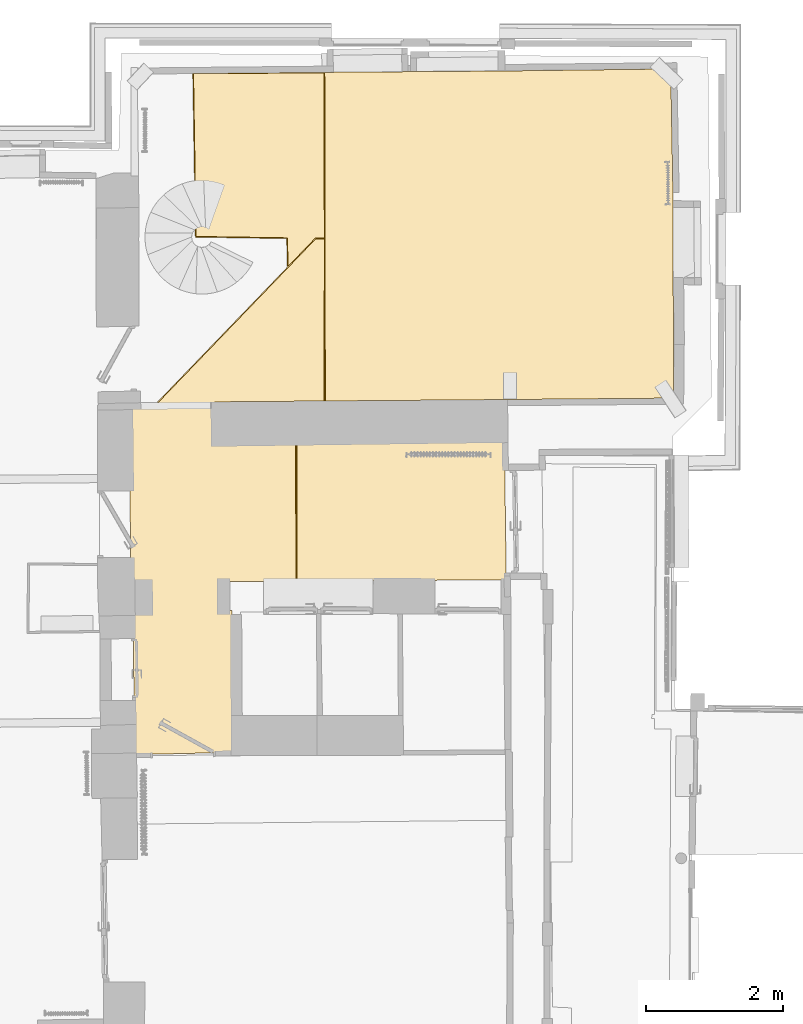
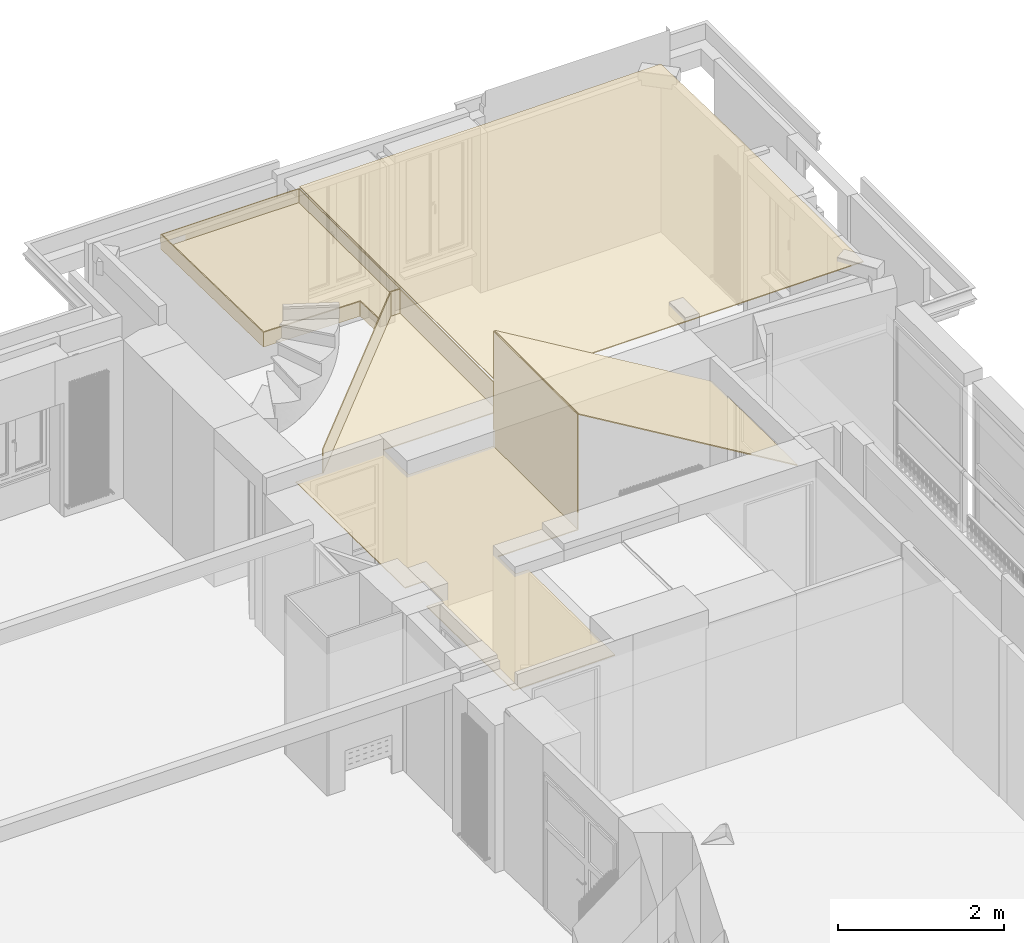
# One storey, part 70 of 72: 1 covering.
"""IFC2X3 building model written with IfcOpenShell, lengths in centimetres."""

import ifcopenshell
import ifcopenshell.guid

model = None  # the IFC model being written
_history = None  # IfcOwnerHistory: only IFC2X3 demands one
_inside = {}  # id of a spatial element -> (the spatial element, [elements in it])
_under = {}  # id of a project, library or spatial element -> (it, [spatial elements below it])
_declared = {}  # id of a project -> (the project, [libraries it declares])
_typed = {}  # id of a type object -> (the type object, [elements of that type])
_made_of = {}  # id of a material, layer set ... -> (it, [elements and type objects made of it])


def new_model(schema):
    """Start an empty IFC model of exactly this schema.

    Asked for "IFC4X3", IfcOpenShell would pick the latest addendum, in which some entities
    have other attributes; the version numbers below select the first issue.
    IFC2X3 requires an IfcOwnerHistory on every rooted entity: one is made here for all.
    """
    global model, _history
    if schema == "IFC4X3":
        model = ifcopenshell.file(schema_version=(4, 3, 0, 0))
    else:
        model = ifcopenshell.file(schema=schema)
    _inside.clear()
    _under.clear()
    _declared.clear()
    _typed.clear()
    _made_of.clear()
    _history = None
    if model.schema == "IFC2X3":
        org = make("IfcOrganization", Name="unknown")
        user = make(
            "IfcPersonAndOrganization",
            ThePerson=make("IfcPerson", FamilyName="unknown"),
            TheOrganization=org,
        )
        app = make(
            "IfcApplication",
            ApplicationDeveloper=org,
            Version="unknown",
            ApplicationFullName="unknown",
            ApplicationIdentifier="unknown",
        )
        _history = make(
            "IfcOwnerHistory",
            OwningUser=user,
            OwningApplication=app,
            ChangeAction="ADDED",
            CreationDate=0,
        )
    return model


def make(cls, **values):
    """One entity of the class cls with the attributes given. An attribute that is None is left unset."""
    return model.create_entity(
        cls, **{name: value for name, value in values.items() if value is not None}
    )


def entity(cls, *values):
    """Any entity or typed value of the class cls, its attributes in the order of the schema. None: left unset."""
    e = model.create_entity(cls)
    for i, value in enumerate(values):
        if value is not None:
            e[i] = value
    return e


def rooted(cls, **values):
    """An entity with a GlobalId (a new one), such as an element, a storey or a relation."""
    return make(cls, GlobalId=ifcopenshell.guid.new(), OwnerHistory=_history, **values)


def si_unit(unit_type, name, prefix=None):
    """IfcSIUnit, for example si_unit("LENGTHUNIT", "METRE", prefix="MILLI")."""
    return make("IfcSIUnit", UnitType=unit_type, Prefix=prefix, Name=name)


def converted_unit(unit_type, name, factor, base, dimensions=None, offset=None):
    """IfcConversionBasedUnit, such as the inch: factor (a typed value) times the base unit."""
    return make(
        "IfcConversionBasedUnit"
        if offset is None
        else "IfcConversionBasedUnitWithOffset",
        ConversionOffset=offset,
        Dimensions=None
        if dimensions is None
        else entity("IfcDimensionalExponents", *dimensions),
        UnitType=unit_type,
        Name=name,
        ConversionFactor=make(
            "IfcMeasureWithUnit", ValueComponent=factor, UnitComponent=base
        ),
    )


def assignment(units):
    """IfcUnitAssignment: the units of a project."""
    return None if units is None else make("IfcUnitAssignment", Units=units)


def point(xyz):
    """IfcCartesianPoint."""
    return None if xyz is None else make("IfcCartesianPoint", Coordinates=xyz)


def direction(xyz):
    """IfcDirection."""
    return None if xyz is None else make("IfcDirection", DirectionRatios=xyz)


def frame(location, z_axis=None, x_axis=None):
    """IfcAxis2Placement3D, a coordinate frame: its origin and axes. An axis left out is left unset."""
    return make(
        "IfcAxis2Placement3D",
        Location=point(location),
        Axis=direction(z_axis),
        RefDirection=direction(x_axis),
    )


def origin():
    """The frame at (0, 0, 0) with its axes left unset."""
    return frame((0.0, 0.0, 0.0))


def origin_with_axes():
    """The frame at (0, 0, 0) with the z axis (0, 0, 1) and the x axis (1, 0, 0) written out."""
    return frame((0.0, 0.0, 0.0), z_axis=(0.0, 0.0, 1.0), x_axis=(1.0, 0.0, 0.0))


def place(relative_to, where):
    """IfcLocalPlacement: puts the frame where relative to a parent placement (None: the world)."""
    return make(
        "IfcLocalPlacement", PlacementRelTo=relative_to, RelativePlacement=where
    )


def context(
    kind, dimensions, precision=None, world=None, true_north=None, identifier=None
):
    """IfcGeometricRepresentationContext, for example the 3D "Model" context."""
    return make(
        "IfcGeometricRepresentationContext",
        ContextIdentifier=identifier,
        ContextType=kind,
        CoordinateSpaceDimension=dimensions,
        Precision=precision,
        WorldCoordinateSystem=world,
        TrueNorth=true_north,
    )


def subcontext(parent, identifier, kind, view, scale=None):
    """IfcGeometricRepresentationSubContext, for example "Body" below "Model"."""
    return make(
        "IfcGeometricRepresentationSubContext",
        ContextIdentifier=identifier,
        ContextType=kind,
        ParentContext=parent,
        TargetScale=scale,
        TargetView=view,
    )


def project(units=None, contexts=None):
    """IfcProject with its units and contexts."""
    return rooted(
        "IfcProject",
        Name="project",
        RepresentationContexts=contexts,
        UnitsInContext=assignment(units),
    )


def spatial(cls, under=None, at=None, **own):
    """A site, building, storey or space (cls), placed at a placement, below another one or the project."""
    s = rooted(cls, ObjectPlacement=at, **own)
    if under is not None:
        _under.setdefault(under.id(), (under, []))[1].append(s)
    return s


def faces_of(points, faces, orient=None, outer=None):
    """IfcFace entities. A face is a list of loops; a loop is a list of indices into points, from 0.

    orient and outer hold one flag for each loop. By default every Orientation is true, the
    first loop of a face is its IfcFaceOuterBound and the others are IfcFaceBound.
    """
    made = []
    for i, loops in enumerate(faces):
        bounds = []
        for j, loop in enumerate(loops):
            is_outer = j == 0 if outer is None else outer[i][j]
            bounds.append(
                make(
                    "IfcFaceOuterBound" if is_outer else "IfcFaceBound",
                    Bound=make("IfcPolyLoop", Polygon=[points[k] for k in loop]),
                    Orientation=True if orient is None else orient[i][j],
                )
            )
        made.append(make("IfcFace", Bounds=bounds))
    return made


def faceted_brep(points, faces, orient=None, outer=None, voids=None):
    """IfcFacetedBrep: a solid bounded by flat faces; with voids (closed shells), ...WithVoids."""
    shared = [point(p) for p in points]
    hull = make("IfcClosedShell", CfsFaces=faces_of(shared, faces, orient, outer))
    if voids is None:
        return make("IfcFacetedBrep", Outer=hull)
    return make(
        "IfcFacetedBrepWithVoids",
        Outer=hull,
        Voids=[
            make(cls, CfsFaces=faces_of(shared, fs, o, b)) for cls, fs, o, b in voids
        ],
    )


def shape(context_of_items, identifier, shape_type, items):
    """IfcShapeRepresentation: the items that make up one representation, for example the "Body"."""
    return make(
        "IfcShapeRepresentation",
        ContextOfItems=context_of_items,
        RepresentationIdentifier=identifier,
        RepresentationType=shape_type,
        Items=items,
    )


def material(Name=None, Category=None):
    """IfcMaterial."""
    return make("IfcMaterial", Name=Name, Category=Category)


def made_of(thing, what):
    """Note that an element or type object is made of a material, layer set ...; save() writes the relation."""
    if what is not None:
        _made_of.setdefault(what.id(), (what, []))[1].append(thing)
    return thing


def element(
    cls,
    number,
    at=None,
    inside=None,
    cuts=None,
    type_object=None,
    material=None,
    context=None,
    identifier="Body",
    shape_type=None,
    held_by="IfcProductDefinitionShape",
    body=None,
    shapes=None,
    **own,
):
    """One element of the class cls, such as IfcWall. Its Tag is "e" and its number.

    at: its placement. inside: the storey or other place that contains it. cuts: it is an
    opening in that element (IfcRelVoidsElement). A single representation is given by context,
    identifier, shape_type and body (its items); several are given by shapes. held_by: the class
    of the entity that holds the representations. save() writes the other relations.
    """
    e = rooted(cls, Tag="e%d" % number, ObjectPlacement=at, **own)
    if body is not None:
        shapes = [shape(context, identifier, shape_type, body)]
    if shapes is not None:
        e.Representation = make(held_by, Representations=shapes)
    if inside is not None:
        _inside.setdefault(inside.id(), (inside, []))[1].append(e)
    if cuts is not None:
        rooted(
            "IfcRelVoidsElement", RelatingBuildingElement=cuts, RelatedOpeningElement=e
        )
    if type_object is not None:
        _typed.setdefault(type_object.id(), (type_object, []))[1].append(e)
    return made_of(e, material)


def aggregate(whole, parts):
    """IfcRelAggregates: a whole, such as a stair, and the parts it consists of."""
    return rooted("IfcRelAggregates", RelatingObject=whole, RelatedObjects=parts)


def save(model, path):
    """Write the relations noted so far, then the file.

    IfcRelAggregates (storeys below a building ...), IfcRelContainedInSpatialStructure (elements
    in a storey), IfcRelDefinesByType, IfcRelAssociatesMaterial and IfcRelDeclares: one each for
    every whole, place, type object, material and project.
    """
    for whole, parts in _under.values():
        aggregate(whole, parts)
    for where, things in _inside.values():
        rooted(
            "IfcRelContainedInSpatialStructure",
            RelatedElements=things,
            RelatingStructure=where,
        )
    for kind, things in _typed.values():
        rooted("IfcRelDefinesByType", RelatedObjects=things, RelatingType=kind)
    for what, things in _made_of.values():
        rooted("IfcRelAssociatesMaterial", RelatedObjects=things, RelatingMaterial=what)
    for by, libraries in _declared.values():
        rooted("IfcRelDeclares", RelatingContext=by, RelatedDefinitions=libraries)
    model.write(path)


model = new_model("IFC2X3")

# Units and contexts
model_context = context("Model", 3, precision=0.0001, world=origin(), true_north=direction((0.225632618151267, 0.974212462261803, 0.0)))
body_context = subcontext(model_context, "Body", "Model", "MODEL_VIEW")
ifc_project = project(units=[si_unit("LENGTHUNIT", "METRE", prefix="CENTI"), si_unit("AREAUNIT", "SQUARE_METRE", prefix="CENTI"), si_unit("VOLUMEUNIT", "CUBIC_METRE", prefix="CENTI"), converted_unit("PLANEANGLEUNIT", "DEGREE", entity("IfcRatioMeasure", 0.0174532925), si_unit("PLANEANGLEUNIT", "RADIAN"), dimensions=[0, 0, 0, 0, 0, 0, 0])], contexts=[model_context])

# Site, building, storey
site_placement = place(None, origin_with_axes())
site = spatial("IfcSite", under=ifc_project, at=site_placement, Name="Default Site", CompositionType="ELEMENT")
building_placement = place(site_placement, origin_with_axes())
building = spatial("IfcBuilding", under=site, at=building_placement, Name="Default Building", CompositionType="ELEMENT")
storey_placement = place(building_placement, frame((0.0, 0.0, 853.910374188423), z_axis=(0.0, 0.0, 1.0), x_axis=(1.0, 0.0, 0.0)))
storey = spatial("IfcBuildingStorey", under=building, at=storey_placement, Name="Niveau 2", CompositionType="ELEMENT", Elevation=853.910374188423)

# Covering
ifc_material = material(Name="Blanc")
covering_placement = place(storey_placement, frame((826.983669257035, 172.184183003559, 209.0), z_axis=(0.0, 0.0, 1.0), x_axis=(1.0, 0.0, 0.0)))
element("IfcCovering", 1, at=covering_placement, inside=storey, material=ifc_material, Name="Faux-plafond 152175", PredefinedType="CEILING", context=body_context, shape_type="Brep", body=[
    faceted_brep([(-261.31799504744, 538.27109157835, 40.189639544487), (-260.439279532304, 58.6967927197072, 40.189639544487), (-4.19934079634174, 60.7167464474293, 40.189639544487), (247.452232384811, 62.9652005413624, 40.189639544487), (246.923419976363, 352.796075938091, 40.189639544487), (243.44947054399, 543.209264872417, 40.189639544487), (-8.76171872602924, 540.120885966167, 40.189639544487), (-8.76171872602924, 540.120885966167, 38.7896456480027), (243.44947054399, 543.209264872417, 38.7896456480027), (246.923419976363, 352.796075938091, 38.7896456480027), (247.452232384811, 62.9652005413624, 38.7896456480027), (-4.19934079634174, 60.7167464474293, 38.7896456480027), (-260.439279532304, 58.6967927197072, 38.7896456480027), (-261.31799504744, 538.27109157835, 38.7896456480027), (-260.439283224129, 58.6967927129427, 38.7896456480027), (-260.439283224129, 58.6967927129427, 40.189639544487), (-4.1993406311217, 60.7167254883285, 38.7896456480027), (-4.1993406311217, 60.7167254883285, 40.189639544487), (247.452232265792, 62.9652138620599, 38.7896456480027), (247.452232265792, 62.9652138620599, 40.189639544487), (246.923419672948, 352.796075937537, 38.7896456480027), (246.923419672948, 352.796075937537, 40.189639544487), (243.449435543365, 543.20926423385, 38.7896456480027), (243.449435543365, 543.20926423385, 40.189639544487), (-8.76171913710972, 540.12091953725, 38.7896456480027), (-8.76171913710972, 540.12091953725, 40.189639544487), (-261.317995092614, 538.271097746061, 38.7896456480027), (-261.317995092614, 538.271097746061, 40.189639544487)], [[[0, 1, 2, 3, 4, 5, 6]], [[7, 8, 9, 10, 11, 12, 13]], [[13, 14, 15, 0]], [[12, 16, 17, 1]], [[11, 18, 19, 2]], [[10, 20, 21, 3]], [[9, 22, 23, 4]], [[8, 24, 25, 5]], [[7, 26, 27, 6]]]),
    faceted_brep([(-274.937894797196, 296.558330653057, 17.489615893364), (-260.677173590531, 296.338127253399, 17.489615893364), (-261.31799504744, 538.27109157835, 17.489615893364), (-454.056313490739, 538.015125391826, 17.489615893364), (-450.223663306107, 297.575805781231, 17.489615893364), (-316.98377416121, 295.574043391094, 17.489615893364), (-315.99500462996, 253.902242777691, 17.489615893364), (-315.99500462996, 253.902242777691, 16.0896219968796), (-316.98377416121, 295.574043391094, 16.0896219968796), (-450.223663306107, 297.575805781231, 16.0896219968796), (-454.056313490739, 538.015125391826, 16.0896219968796), (-261.31799504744, 538.27109157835, 16.0896219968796), (-260.677173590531, 296.338127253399, 16.0896219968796), (-274.937894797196, 296.558330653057, 16.0896219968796), (-260.677173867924, 296.338109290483, 16.0896219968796), (-260.677173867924, 296.338109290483, 17.489615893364), (-261.317969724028, 538.271091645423, 16.0896219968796), (-261.317969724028, 538.271091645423, 17.489615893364), (-454.056313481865, 538.015118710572, 16.0896219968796), (-454.056313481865, 538.015118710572, 17.489615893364), (-450.223660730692, 297.575805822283, 16.0896219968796), (-450.223660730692, 297.575805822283, 17.489615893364), (-316.983774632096, 295.574012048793, 16.0896219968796), (-316.983774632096, 295.574012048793, 17.489615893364), (-315.994970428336, 253.902243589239, 16.0896219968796), (-315.994970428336, 253.902243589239, 17.489615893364), (-274.937900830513, 296.558336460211, 16.0896219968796), (-274.937900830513, 296.558336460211, 17.489615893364)], [[[0, 1, 2, 3, 4, 5, 6]], [[7, 8, 9, 10, 11, 12, 13]], [[13, 14, 15, 0]], [[12, 16, 17, 1]], [[11, 18, 19, 2]], [[10, 20, 21, 3]], [[9, 22, 23, 4]], [[8, 24, 25, 5]], [[7, 26, 27, 6]]]),
    faceted_brep([(-544.082572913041, -205.771641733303, 1.39998576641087), (-517.963245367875, -205.587496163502, 1.39998576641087), (-517.635109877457, -252.12933600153, 1.39998576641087), (-541.043236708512, -252.421327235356, 1.39998576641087), (-538.692763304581, -457.298423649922, 1.39998576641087), (-395.823076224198, -453.99239242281, 1.39998576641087), (-396.896913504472, -246.966858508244, 1.39998576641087), (-414.25783917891, -247.111137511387, 1.39998576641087), (-414.636066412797, -204.862736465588, 1.39998576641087), (-302.256658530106, -204.066716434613, 1.39998576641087), (-302.491167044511, -1.81306779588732, 1.39998576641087), (-421.853187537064, -2.35383689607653, 1.39998576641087), (-422.324398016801, 57.420657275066, 1.39998576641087), (-260.439279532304, 58.6967927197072, 1.39998576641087), (-260.677173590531, 296.338127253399, 1.39998576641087), (-274.937894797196, 296.558330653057, 1.39998576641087), (-510.029342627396, 52.3111563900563, 1.39998576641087), (-547.057774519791, 51.8835765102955, 1.39998576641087), (-547.057774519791, 51.8835765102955, -8.13007350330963e-06), (-510.029342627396, 52.3111563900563, -8.13007350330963e-06), (-274.937894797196, 296.558330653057, -8.13007350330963e-06), (-260.677173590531, 296.338127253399, -8.13007350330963e-06), (-260.439279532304, 58.6967927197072, -8.13007350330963e-06), (-422.324398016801, 57.420657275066, -8.13007350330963e-06), (-421.853187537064, -2.35383689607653, -8.13007350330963e-06), (-302.491167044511, -1.81306779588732, -8.13007350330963e-06), (-302.256658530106, -204.066716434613, -8.13007350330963e-06), (-414.636066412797, -204.862736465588, -8.13007350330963e-06), (-414.25783917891, -247.111137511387, -8.13007350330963e-06), (-396.896913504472, -246.966858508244, -8.13007350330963e-06), (-395.823076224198, -453.99239242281, -8.13007350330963e-06), (-538.692763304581, -457.298423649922, -8.13007350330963e-06), (-541.043236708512, -252.421327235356, -8.13007350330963e-06), (-517.635109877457, -252.12933600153, -8.13007350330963e-06), (-517.963245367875, -205.587496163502, -8.13007350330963e-06), (-544.082572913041, -205.771641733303, -8.13007350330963e-06), (-517.963245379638, -205.587494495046, -8.13007350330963e-06), (-517.963245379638, -205.587494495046, 1.39998576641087), (-517.635114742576, -252.12933603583, -8.13007350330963e-06), (-517.635114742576, -252.12933603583, 1.39998576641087), (-541.04323673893, -252.421324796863, -8.13007350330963e-06), (-541.04323673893, -252.421324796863, 1.39998576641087), (-538.69274633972, -457.298423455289, -8.13007350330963e-06), (-538.69274633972, -457.298423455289, 1.39998576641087), (-395.823076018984, -453.992401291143, -8.13007350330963e-06), (-395.823076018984, -453.992401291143, 1.39998576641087), (-396.89691789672, -246.966858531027, -8.13007350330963e-06), (-396.89691789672, -246.966858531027, 1.39998576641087), (-414.257839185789, -247.111136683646, -8.13007350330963e-06), (-414.257839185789, -247.111136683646, 1.39998576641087), (-414.636037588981, -204.862736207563, -8.13007350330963e-06), (-414.636037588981, -204.862736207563, 1.39998576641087), (-302.256658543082, -204.066714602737, -8.13007350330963e-06), (-302.256658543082, -204.066714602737, 1.39998576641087), (-302.491128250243, -1.81306775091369, -8.13007350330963e-06), (-302.491128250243, -1.81306775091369, 1.39998576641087), (-421.853187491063, -2.35384704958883, -8.13007350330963e-06), (-421.853187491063, -2.35384704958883, 1.39998576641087), (-422.324388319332, 57.4206573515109, -8.13007350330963e-06), (-422.324388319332, 57.4206573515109, 1.39998576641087), (-260.439279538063, 58.6967934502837, -8.13007350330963e-06), (-260.439279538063, 58.6967934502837, 1.39998576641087), (-260.677195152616, 296.338127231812, -8.13007350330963e-06), (-260.677195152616, 296.338127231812, 1.39998576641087), (-274.937894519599, 296.558348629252, -8.13007350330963e-06), (-274.937894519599, 296.558348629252, 1.39998576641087), (-510.02932758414, 52.3111419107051, -8.13007350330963e-06), (-510.02932758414, 52.3111419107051, 1.39998576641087), (-547.057774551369, 51.8835792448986, -8.13007350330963e-06), (-547.057774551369, 51.8835792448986, 1.39998576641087), (-544.082561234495, -205.771641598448, -8.13007350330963e-06), (-544.082561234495, -205.771641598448, 1.39998576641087)], [[[0, 1, 2, 3, 4, 5, 6, 7, 8, 9, 10, 11, 12, 13, 14, 15, 16, 17]], [[18, 19, 20, 21, 22, 23, 24, 25, 26, 27, 28, 29, 30, 31, 32, 33, 34, 35]], [[35, 36, 37, 0]], [[34, 38, 39, 1]], [[33, 40, 41, 2]], [[32, 42, 43, 3]], [[31, 44, 45, 4]], [[30, 46, 47, 5]], [[29, 48, 49, 6]], [[28, 50, 51, 7]], [[27, 52, 53, 8]], [[26, 54, 55, 9]], [[25, 56, 57, 10]], [[24, 58, 59, 11]], [[23, 60, 61, 12]], [[22, 62, 63, 13]], [[21, 64, 65, 14]], [[20, 66, 67, 15]], [[19, 68, 69, 16]], [[18, 70, 71, 17]]]),
    faceted_brep([(-301.536157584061, -204.06680584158, 170.321647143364), (3.57521907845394, -202.230225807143, -12.8235629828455), (0.720496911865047, -0.000156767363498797, -11.0826196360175), (-301.770626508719, -1.81322276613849, 170.48976644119), (-302.491167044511, -1.81306779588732, 169.289390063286), (-8.57034390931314e-06, -1.79426414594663e-06, -12.2830170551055), (2.85471359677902, -202.230061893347, -14.0239604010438), (-302.256663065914, -204.066644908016, 169.121249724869), (-302.256658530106, -204.066644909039, 169.121257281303), (2.85470202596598, -202.230063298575, -14.0239796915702), (3.57520296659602, -202.230225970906, -12.8235898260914), (-301.536157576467, -204.066807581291, 170.32164713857), (2.85470201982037, -202.230061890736, -14.0239796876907), (1.25788519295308e-05, -1.03315824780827e-06, -12.2830707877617), (0.720544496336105, -0.000155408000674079, -11.0826995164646), (3.57523406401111, -202.230225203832, -12.8236084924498), (-2.66789101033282e-05, -1.79018053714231e-06, -12.2830472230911), (-302.491167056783, -1.81306497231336, 169.289390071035), (-301.770618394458, -1.81322743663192, 170.489779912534), (0.720474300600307, -0.000164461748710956, -11.0826573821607), (-302.256692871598, -204.066644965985, 169.121277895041), (-301.536160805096, -204.066805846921, 170.321649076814), (-301.770622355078, -1.81322277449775, 170.489782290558)], [[[0, 1, 2, 3]], [[4, 5, 6, 7]], [[8, 9, 10, 11]], [[12, 13, 14, 15]], [[16, 17, 18, 19]], [[4, 20, 21, 22]]]),
    faceted_brep([(-260.677173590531, 296.338127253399, -8.13007350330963e-06), (-261.015918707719, 58.6922627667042, -8.13007350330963e-06), (-262.265947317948, 58.6940270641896, -8.13007350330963e-06), (-261.928966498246, 295.107315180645, -8.13007350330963e-06), (-261.015918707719, 58.6922627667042, 36.9999804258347), (-262.265947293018, 58.6940445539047, 36.9999804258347), (-262.265947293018, 58.6940445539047, -8.13007350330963e-06), (-260.677173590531, 296.338127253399, 36.9999804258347), (-261.928966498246, 295.107315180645, 36.9999804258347), (-262.265947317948, 58.6940270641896, 36.9999804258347), (-261.928944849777, 295.107293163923, -8.13007350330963e-06), (-261.928944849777, 295.107293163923, 36.9999804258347), (-262.265949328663, 58.6940270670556, -8.13007350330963e-06), (-262.265949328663, 58.6940270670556, 36.9999804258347), (-261.015913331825, 58.6922627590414, 36.9999804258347), (-261.015913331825, 58.6922627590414, -8.13007350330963e-06), (-274.937894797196, 296.558330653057, -8.13007350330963e-06), (-260.677173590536, 296.338127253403, 4.81982365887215e-12), (-261.928966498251, 295.107315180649, -1.99103833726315e-11), (-274.414089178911, 295.300100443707, -7.11782400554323e-06), (-274.937894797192, 296.558330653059, 36.9999722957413), (-274.414089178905, 295.300100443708, 36.9999722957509), (-261.928966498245, 295.107315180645, 36.9999794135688), (-274.937894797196, 296.558330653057, 36.9999804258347), (-274.414103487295, 295.300094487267, -8.13007350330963e-06), (-274.414103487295, 295.300094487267, 36.9999804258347), (-274.41408917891, 295.300100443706, -8.13007350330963e-06), (-261.928966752, 295.107298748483, -8.13007350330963e-06), (-261.928966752, 295.107298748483, 36.9999804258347), (-274.41408917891, 295.300100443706, 36.9999804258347), (-260.677173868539, 296.338109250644, 36.9999804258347), (-260.677173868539, 296.338109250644, -8.13007350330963e-06), (-510.083964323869, 52.3105126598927, -8.13007350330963e-06), (-509.18348119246, 51.4435750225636, -8.13007350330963e-06), (-510.083964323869, 52.3105126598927, 36.9999804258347), (-509.18348119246, 51.4435750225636, 36.9999804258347), (-509.183475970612, 51.4435804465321, -8.13007350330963e-06), (-509.183475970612, 51.4435804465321, 36.9999804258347), (-274.414104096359, 295.300114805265, -8.13007350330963e-06), (-274.414104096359, 295.300114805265, 36.9999804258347), (-274.937892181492, 296.558328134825, 36.9999804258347), (-274.937892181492, 296.558328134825, -8.13007350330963e-06)], [[[0, 1, 2, 3]], [[1, 4, 5, 6]], [[4, 7, 8, 9]], [[7, 0, 10, 11]], [[3, 12, 13, 8]], [[7, 14, 15, 0]], [[16, 17, 18, 19]], [[0, 7, 11, 10]], [[7, 20, 21, 22]], [[23, 16, 24, 25]], [[26, 27, 28, 29]], [[23, 30, 31, 16]], [[32, 16, 26, 33]], [[16, 23, 25, 24]], [[23, 34, 35, 29]], [[34, 32, 36, 37]], [[33, 38, 39, 35]], [[34, 40, 41, 32]]]),
    faceted_brep([(-303.506687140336, -204.068093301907, -8.13007350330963e-06), (-303.741147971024, -1.81451022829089, -8.13007350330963e-06), (-302.491167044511, -1.81306779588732, -8.13007350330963e-06), (-302.256658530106, -204.066644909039, -8.13007350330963e-06), (-303.741147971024, -1.81451022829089, 169.99997279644), (-302.491167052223, -1.81306114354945, 169.99997279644), (-302.491167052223, -1.81306114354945, -8.13007350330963e-06), (-303.506687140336, -204.068093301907, 169.99997279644), (-302.256658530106, -204.066644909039, 169.99997279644), (-302.491167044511, -1.81306779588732, 169.99997279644), (-302.256658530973, -204.066644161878, -8.13007350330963e-06), (-302.256658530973, -204.066644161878, 169.99997279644), (-302.256658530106, -204.066716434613, -8.13007350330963e-06), (-302.491128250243, -1.81306775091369, -8.13007350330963e-06), (-302.491128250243, -1.81306775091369, 169.99997279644), (-302.256658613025, -204.066644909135, 169.99997279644), (-303.7411567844, -1.81451023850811, 169.99997279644), (-303.7411567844, -1.81451023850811, -8.13007350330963e-06)], [[[0, 1, 2, 3]], [[1, 4, 5, 6]], [[4, 7, 8, 9]], [[7, 0, 10, 11]], [[12, 13, 14, 15]], [[7, 16, 17, 0]]]),
    faceted_brep([(-261.31799504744, 538.27109157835, 16.0896219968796), (-260.677173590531, 296.338127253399, 16.0896219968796), (-261.927202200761, 296.334789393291, 16.0896219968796), (-262.564685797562, 537.019441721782, 16.0896219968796), (-260.677173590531, 296.338127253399, 37.7896227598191), (-261.927202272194, 296.334816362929, 37.7896227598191), (-261.927202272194, 296.334816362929, 16.0896219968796), (-261.31799504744, 538.27109157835, 37.7896227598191), (-262.564685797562, 537.019441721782, 37.7896227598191), (-261.927202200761, 296.334789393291, 37.7896227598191), (-262.564681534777, 537.019437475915, 16.0896219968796), (-262.564681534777, 537.019437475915, 37.7896227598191), (-261.927196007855, 296.334789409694, 16.0896219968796), (-261.927196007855, 296.334789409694, 37.7896227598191), (-260.677198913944, 296.338127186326, 37.7896227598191), (-260.677198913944, 296.338127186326, 16.0896219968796), (-454.056313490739, 538.015125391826, 16.0896219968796), (-452.786257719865, 536.766813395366, 16.0896219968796), (-454.056313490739, 538.015125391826, 37.7896227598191), (-452.786257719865, 536.766813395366, 37.7896227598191), (-452.786258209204, 536.766812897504, 16.0896219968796), (-452.786258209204, 536.766812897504, 37.7896227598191), (-262.564685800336, 537.019443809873, 16.0896219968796), (-262.564685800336, 537.019443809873, 37.7896227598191), (-261.317995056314, 538.271098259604, 37.7896227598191), (-261.317995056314, 538.271098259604, 16.0896219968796), (-450.223663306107, 297.575805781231, 16.0896219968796), (-448.993137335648, 298.807476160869, 16.0896219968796), (-450.223663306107, 297.575805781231, 37.7896227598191), (-448.993137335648, 298.807476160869, 37.7896227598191), (-448.993128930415, 298.807467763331, 16.0896219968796), (-448.993128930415, 298.807467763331, 37.7896227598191), (-452.786258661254, 536.76681338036, 16.0896219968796), (-452.786258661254, 536.76681338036, 37.7896227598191), (-454.056316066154, 538.015125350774, 37.7896227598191), (-454.056316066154, 538.015125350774, 16.0896219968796), (-316.98377416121, 295.574043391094, 16.0896219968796), (-315.762689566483, 296.805809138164, 16.0896219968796), (-316.98377416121, 295.574043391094, 37.7896227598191), (-315.762689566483, 296.805809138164, 37.7896227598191), (-315.762684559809, 296.805804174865, 16.0896219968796), (-315.762684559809, 296.805804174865, 37.7896227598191), (-448.993137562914, 298.807461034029, 16.0896219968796), (-448.993137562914, 298.807461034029, 37.7896227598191), (-450.223662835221, 297.575837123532, 37.7896227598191), (-450.223662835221, 297.575837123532, 16.0896219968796), (-315.996101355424, 253.948734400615, 16.0896219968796), (-314.746454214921, 253.978393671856, 16.0896219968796), (-315.996101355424, 253.948734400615, 37.7896227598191), (-314.746454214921, 253.978393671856, 37.7896227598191), (-314.746454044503, 253.978386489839, 16.0896219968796), (-314.746454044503, 253.978386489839, 37.7896227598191), (-315.762678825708, 296.805809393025, 16.0896219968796), (-315.762678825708, 296.805809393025, 37.7896227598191), (-316.983801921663, 295.574042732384, 37.7896227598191), (-316.983801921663, 295.574042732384, 16.0896219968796)], [[[0, 1, 2, 3]], [[1, 4, 5, 6]], [[4, 7, 8, 9]], [[7, 0, 10, 11]], [[3, 12, 13, 8]], [[7, 14, 15, 0]], [[16, 0, 3, 17]], [[0, 7, 11, 10]], [[7, 18, 19, 8]], [[18, 16, 20, 21]], [[17, 22, 23, 19]], [[18, 24, 25, 16]], [[26, 16, 17, 27]], [[16, 18, 21, 20]], [[18, 28, 29, 19]], [[28, 26, 30, 31]], [[27, 32, 33, 29]], [[28, 34, 35, 26]], [[36, 26, 27, 37]], [[26, 28, 31, 30]], [[28, 38, 39, 29]], [[38, 36, 40, 41]], [[37, 42, 43, 39]], [[38, 44, 45, 36]], [[46, 36, 37, 47]], [[36, 38, 41, 40]], [[38, 48, 49, 39]], [[48, 46, 50, 51]], [[47, 52, 53, 49]], [[48, 54, 55, 46]]]),
])

save(model, "model.ifc")
